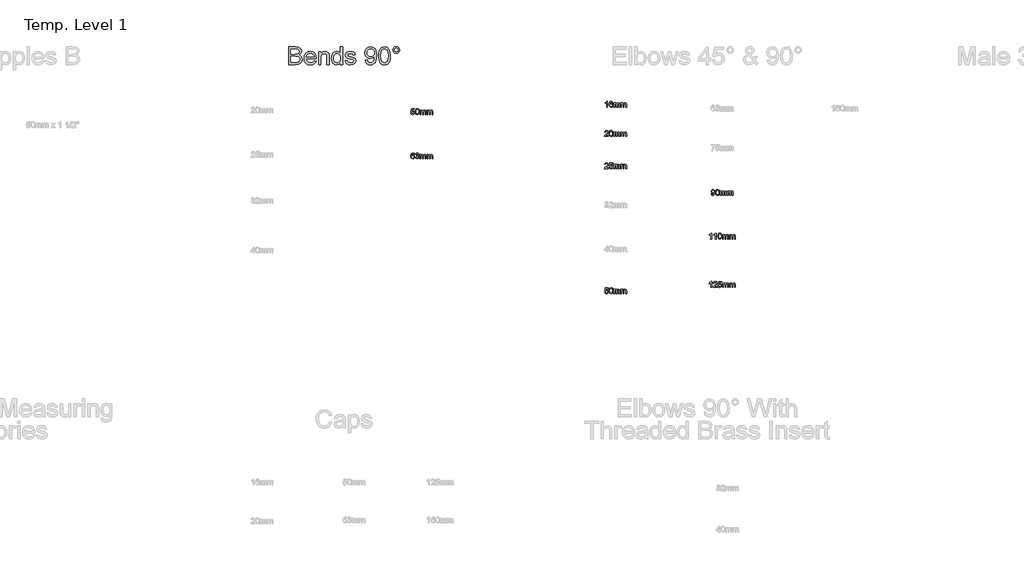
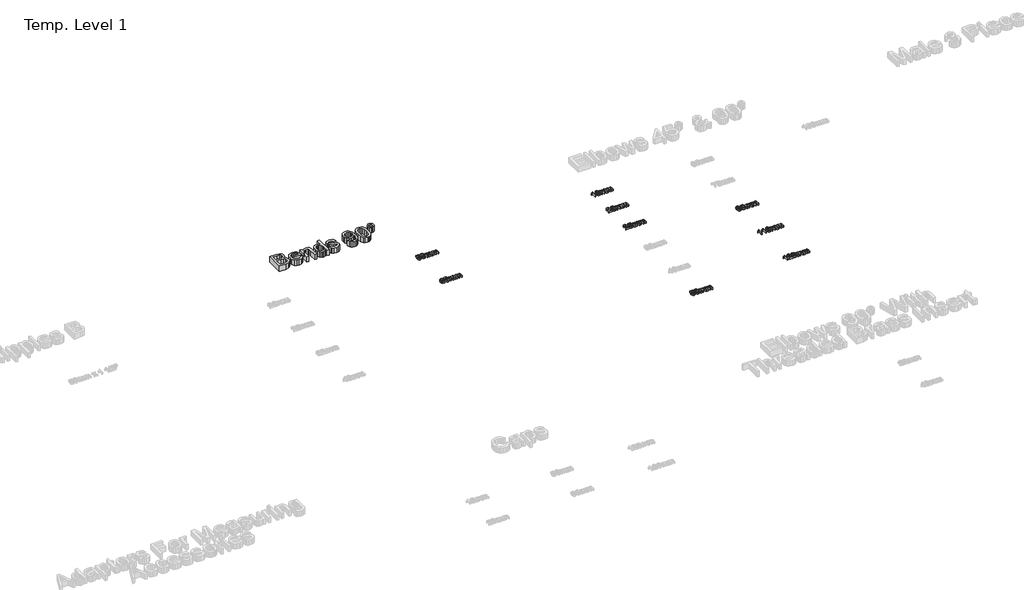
# One storey, part 60 of 62: 10 proxies.
"""IFC4 building model written with IfcOpenShell, lengths in millimetres."""

from ifc_helpers import new_model, si_unit, origin, origin_with_axes, place, context, project, spatial, polyline, outline, extrude, element, save

model = new_model("IFC4")

# Units and contexts
model_context = context("Model", 3, world=origin())
ifc_project = project(units=[si_unit("LENGTHUNIT", "METRE", prefix="MILLI")], contexts=[model_context])

# Site, building, storey
site = spatial("IfcSite", under=ifc_project)
building = spatial("IfcBuilding", under=site)
storey = spatial("IfcBuildingStorey", under=building, Name="Temp. Level 1", Elevation=0.0)

# Proxies
placement = place(None, origin())
element("IfcBuildingElementProxy", 1, Name="150mm Arial", ObjectType="150mm Arial", at=placement, inside=storey, context=model_context, shape_type="SweptSolid", body=[
    extrude(outline(polyline([(20962.2714827, 1929.801483), (20962.2714827, 2077.4937907), (21018.6296558, 2077.4937907), (21046.2318192, 2073.1488388), (21055.5076606, 2067.636519), (21062.5298962, 2059.7894638), (21068.4253288, 2040.895233), (21063.4673962, 2023.6416272), (21048.485425, 2010.5707138), (21058.946663, 2005.1079734), (21066.6765308, 1996.7966753), (21071.4496678, 1986.1866993), (21073.0407135, 1973.8279253), (21068.6957615, 1953.9781657), (21057.9325404, 1939.8435503), (21041.8688385, 1932.3435503), (21018.1969635, 1929.801483), (20962.2714827, 1929.801483)]), holes=[polyline([(20980.7330212, 1948.2630214), (21018.5935981, 1948.2630214), (21032.2955212, 1948.9841753), (21043.8880692, 1953.004608), (21051.5683577, 1961.207733), (21054.579175, 1973.6476368), (21051.0455212, 1987.9985984), (21039.5972038, 1996.5623003), (21016.7907135, 1999.0322522), (20980.7330212, 1999.0322522), (20980.7330212, 1948.2630214)]), polyline([(20980.7330212, 2017.4937907), (21014.4469635, 2017.4937907), (21034.1344635, 2019.0803291), (21045.9794154, 2025.9132618), (21049.9637904, 2037.9385022), (21046.2498481, 2049.9817714), (21035.6128288, 2057.1031657), (21011.8868673, 2059.0322522), (20980.7330212, 2059.0322522), (20980.7330212, 2017.4937907)])]), origin_with_axes(), (0.0, 0.0, 1.0), 50.0),
    extrude(outline(polyline([(21172.0551365, 1962.1091753), (21190.1560981, 1959.801483), (21183.634163, 1946.1626609), (21173.2270115, 1935.9673484), (21159.1690188, 1929.6121801), (21141.6945596, 1927.4937907), (21120.032901, 1931.1491392), (21103.3652327, 1942.1151849), (21092.7372279, 1959.6797883), (21089.1945596, 1983.1308099), (21092.7732856, 2007.3705936), (21103.5094635, 2025.4985984), (21119.9517712, 2036.8026849), (21140.6488865, 2040.5707138), (21160.7014707, 2036.8116993), (21176.7246077, 2025.5346561), (21187.2309178, 2007.4427089), (21190.7330212, 1983.238983), (21190.6248481, 1978.2630214), (21107.6560981, 1978.2630214), (21110.8517111, 1964.4439109), (21118.2750885, 1954.2846561), (21128.9887303, 1948.0376609), (21142.0551365, 1945.9553291), (21160.1560981, 1949.8135022), (21172.0551365, 1962.1091753)]), holes=[polyline([(21107.6560981, 1996.7245599), (21172.2714827, 1996.7245599), (21169.7744875, 2006.4781657), (21164.8796558, 2013.4553291), (21154.1164346, 2019.9457138), (21140.5767712, 2022.1091753), (21128.1323601, 2020.3829133), (21117.8423962, 2015.2041272), (21110.6894514, 2007.1317113), (21107.6560981, 1996.7245599)])]), origin_with_axes(), (0.0, 0.0, 1.0), 50.0),
    extrude(outline(polyline([(21209.1945596, 1929.801483), (21209.1945596, 2038.2630214), (21227.6560981, 2038.2630214), (21227.6560981, 2023.1187907), (21241.7726846, 2036.207733), (21261.0455212, 2040.5707138), (21278.4794154, 2037.0550888), (21290.3784538, 2027.8243195), (21295.9133096, 2014.2485984), (21296.8868673, 1996.4000407), (21296.8868673, 1929.801483), (21278.4253288, 1929.801483), (21278.4253288, 1993.9120599), (21276.297925, 2010.2461945), (21268.7798962, 2018.8820118), (21256.1056173, 2022.1091753), (21245.2928168, 2020.2972763), (21236.0755692, 2014.8615791), (21229.7609659, 2004.3597763), (21227.6560981, 1987.3495599), (21227.6560981, 1929.801483), (21209.1945596, 1929.801483)])), origin_with_axes(), (0.0, 0.0, 1.0), 50.0),
    extrude(outline(polyline([(21389.1945596, 1929.801483), (21389.1945596, 1947.2173484), (21376.9800163, 1932.4246801), (21360.0960019, 1927.4937907), (21348.1609058, 1929.2786464), (21337.235425, 1934.6332138), (21327.9866269, 1943.183394), (21321.0815788, 1954.5550888), (21316.781699, 1968.2885623), (21315.3484058, 1983.9240791), (21320.6308577, 2013.3110984), (21327.2294154, 2024.9667474), (21336.4601846, 2033.5394638), (21347.6245476, 2038.8129013), (21360.0238865, 2040.5707138), (21377.0431173, 2035.5406657), (21389.1945596, 2022.4697522), (21389.1945596, 2077.4937907), (21407.6560981, 2077.4937907), (21407.6560981, 1929.801483), (21389.1945596, 1929.801483)]), holes=[polyline([(21333.8099442, 1983.9961945), (21335.892276, 1967.2969758), (21342.1392712, 1955.4204734), (21351.2167952, 1948.3216152), (21361.7907135, 1945.9553291), (21372.3601245, 1948.2134421), (21381.2077808, 1954.9877811), (21387.1978649, 1966.4045479), (21389.1945596, 1982.5899445), (21387.1618072, 2000.285257), (21381.06355, 2012.5538868), (21371.9905332, 2019.7203532), (21361.0335019, 2022.1091753), (21350.3514106, 2019.8150046), (21341.5984058, 2012.9324926), (21335.7570596, 2001.1100767), (21333.8099442, 1983.9961945)])]), origin_with_axes(), (0.0, 0.0, 1.0), 50.0),
    extrude(outline(polyline([(21428.4253288, 1962.1091753), (21446.8868673, 1964.4168676), (21449.798526, 1956.520233), (21455.4325404, 1950.7149445), (21475.0118673, 1945.9553291), (21493.8339827, 1950.3183099), (21499.9637904, 1960.5586945), (21493.797925, 1968.8519638), (21474.7955212, 1974.1163868), (21446.9950404, 1983.1488388), (21434.8616269, 1993.6957138), (21430.7330212, 2008.5875407), (21434.0503288, 2022.3435503), (21443.1008096, 2032.8543676), (21454.8375885, 2038.317108), (21470.7210019, 2040.5707138), (21493.1849442, 2036.9469157), (21507.4637904, 2027.1392234), (21513.8099442, 2010.5707138), (21495.3484058, 2008.2630214), (21488.4073, 2018.4493195), (21472.1633096, 2022.1091753), (21454.4950404, 2018.6115791), (21449.1945596, 2010.4625407), (21451.3940788, 2005.0899445), (21458.2810981, 2001.0154253), (21474.1825404, 1997.0851368), (21501.2798962, 1988.395233), (21513.8640308, 1978.551483), (21518.4253288, 1962.5058099), (21513.0707615, 1944.8375407), (21497.6200404, 1932.0190311), (21474.7594635, 1927.4937907), (21456.1446798, 1929.6752811), (21442.5599442, 1936.2197522), (21433.4914346, 1947.0550888), (21428.4253288, 1962.1091753)])), origin_with_axes(), (0.0, 0.0, 1.0), 50.0),
    extrude(outline(polyline([(21594.579175, 1966.7245599), (21613.0407135, 1969.0322522), (21616.1957615, 1958.5529854), (21621.3339827, 1951.4180695), (21637.0551365, 1945.9553291), (21652.00105, 1949.4709541), (21662.1332615, 1958.863983), (21668.172925, 1974.9096561), (21670.8411942, 1996.3279253), (21670.7330212, 1999.9336945), (21655.9673962, 1985.9433099), (21635.7210019, 1980.5707138), (21618.8865668, 1983.8519638), (21604.8736462, 1993.6957138), (21595.4220236, 2008.9030455), (21592.2714827, 2028.2750407), (21595.5752688, 2048.2870599), (21605.4866269, 2063.9721561), (21620.3739466, 2074.113382), (21638.6056173, 2077.4937907), (21652.3751486, 2075.5647041), (21664.9097038, 2069.7774445), (21675.3934779, 2060.4204734), (21683.0106654, 2047.7822522), (21687.6485861, 2030.3123003), (21689.1945596, 2006.4601368), (21687.6530933, 1981.1701729), (21683.0286942, 1961.6223964), (21675.3619274, 1946.933394), (21664.6933577, 1936.2197522), (21651.4827207, 1929.6752811), (21636.1897519, 1927.4937907), (21620.4054971, 1930.0674085), (21607.8123481, 1937.7882618), (21599.0052567, 1950.1695719), (21594.579175, 1966.7245599)]), holes=[polyline([(21670.7330212, 2028.707733), (21668.7408337, 2041.2197522), (21662.7642712, 2050.8471561), (21653.4884298, 2056.9859782), (21641.5984058, 2059.0322522), (21629.266675, 2056.8282258), (21619.3868673, 2050.2161464), (21612.8964827, 2040.0974565), (21610.7330212, 2027.3735984), (21612.7792952, 2015.965846), (21618.9181173, 2006.910858), (21628.5545356, 2001.0019037), (21641.0935981, 1999.0322522), (21652.8889707, 2001.0019037), (21662.3856654, 2006.910858), (21668.6461822, 2016.2993796), (21670.7330212, 2028.707733)])]), origin_with_axes(), (0.0, 0.0, 1.0), 50.0),
    extrude(outline(polyline([(21705.3484058, 2002.457733), (21706.7050764, 2026.0980575), (21710.7750885, 2044.9517234), (21717.5178769, 2059.3071921), (21726.8928769, 2069.4529253), (21738.9676966, 2075.4835743), (21753.8099442, 2077.4937907), (21775.3724442, 2072.7341753), (21790.2642712, 2059.0142234), (21798.9181173, 2037.1632618), (21802.2714827, 2002.457733), (21800.9283337, 1978.9526248), (21796.8988865, 1960.1440311), (21790.196663, 1945.7750407), (21780.8351846, 1935.5887426), (21768.7333216, 1929.5175287), (21753.8099442, 1927.4937907), (21734.6272519, 1931.0094157), (21720.0599442, 1941.5562907), (21709.0262904, 1966.535257), (21705.3484058, 2002.457733)]), holes=[polyline([(21723.8099442, 2002.4937907), (21725.9734058, 1973.4538267), (21732.4637904, 1956.6464349), (21742.1272519, 1948.6281056), (21753.8099442, 1945.9553291), (21765.4926365, 1948.63712), (21775.1560981, 1956.6824926), (21781.6464827, 1973.4988988), (21783.8099442, 2002.4937907), (21781.7185981, 2030.8802089), (21775.4445596, 2047.8183099), (21765.7991269, 2056.2287666), (21753.5935981, 2059.0322522), (21742.0371077, 2056.5623003), (21732.7522519, 2049.1524445), (21726.0455212, 2031.1596561), (21723.8099442, 2002.4937907)])]), origin_with_axes(), (0.0, 0.0, 1.0), 50.0),
    extrude(outline(polyline([(21823.0407135, 2052.145233), (21825.0734659, 2062.7912666), (21831.1717231, 2071.7245599), (21840.118538, 2077.7822522), (21850.6969635, 2079.801483), (21861.3970837, 2077.7822522), (21870.3484058, 2071.7245599), (21876.4060981, 2062.7912666), (21878.4253288, 2052.145233), (21876.3925764, 2041.512721), (21870.2943192, 2032.5478772), (21861.3294755, 2026.44962), (21850.6969635, 2024.4168676), (21840.118538, 2026.4360984), (21831.1717231, 2032.4937907), (21825.0734659, 2041.4451128), (21823.0407135, 2052.145233)]), holes=[polyline([(21834.579175, 2052.1091753), (21839.3207615, 2040.6788868), (21850.7690788, 2035.9553291), (21862.1452808, 2040.6788868), (21866.8868673, 2052.1091753), (21862.1452808, 2063.5394638), (21850.7690788, 2068.2630214), (21839.3207615, 2063.5394638), (21834.579175, 2052.1091753)])]), origin_with_axes(), (0.0, 0.0, 1.0), 50.0),
])
element("IfcBuildingElementProxy", 2, Name="50mm Arial", ObjectType="50mm Arial", at=placement, inside=storey, context=model_context, shape_type="SweptSolid", body=[
    extrude(outline(polyline([(21971.2361186, 1531.5141512), (21977.3899648, 1532.2833819), (21980.4909263, 1525.9432377), (21986.9212148, 1523.8218435), (21994.6375609, 1526.7725646), (21997.3899648, 1534.6030935), (21994.8118398, 1541.9107858), (21987.0173686, 1544.5910742), (21981.6147244, 1543.5213627), (21978.1591956, 1540.7449204), (21972.0053494, 1541.5141512), (21977.3899648, 1566.8987665), (22001.2361186, 1566.8987665), (22001.2361186, 1560.7449204), (21982.3659263, 1560.7449204), (21979.7337148, 1547.1872281), (21988.7361186, 1550.7449204), (21999.2589552, 1546.3338627), (22003.5438109, 1534.9877089), (21999.6856379, 1523.5694396), (21994.1447725, 1519.1433579), (21986.8971763, 1517.6679973), (21976.0378013, 1521.4600646), (21971.2361186, 1531.5141512)])), origin_with_axes(), (0.0, 0.0, 1.0), 15.0),
    extrude(outline(polyline([(22008.9284263, 1542.6559781), (22010.7373206, 1556.8206415), (22016.1099167, 1564.9877089), (22025.0822725, 1567.6679973), (22032.2697725, 1566.0814589), (22037.2337148, 1561.5081415), (22040.1183302, 1554.2244877), (22041.2361186, 1542.6559781), (22039.4452533, 1528.5514108), (22034.0906859, 1520.3663146), (22025.0822725, 1517.6679973), (22013.8322725, 1522.3554973), (22010.1543879, 1530.6818194), (22008.9284263, 1542.6559781)]), holes=[polyline([(22015.0822725, 1542.6679973), (22017.9668879, 1527.3855454), (22025.0822725, 1523.8218435), (22032.1976571, 1527.3975646), (22035.0822725, 1542.6679973), (22032.2938109, 1557.7761704), (22025.0101571, 1561.5141512), (22018.0630417, 1558.2208819), (22015.0822725, 1542.6679973)])]), origin_with_axes(), (0.0, 0.0, 1.0), 15.0),
    extrude(outline(polyline([(22048.1591956, 1518.4372281), (22048.1591956, 1554.5910742), (22054.3130417, 1554.5910742), (22054.3130417, 1548.641555), (22058.5438109, 1553.5153531), (22064.5654456, 1555.360305), (22070.7313109, 1553.4792954), (22074.120734, 1548.2088627), (22078.9224167, 1553.5724444), (22084.9861186, 1555.360305), (22093.0329936, 1552.3855454), (22095.8515033, 1543.2208819), (22095.8515033, 1518.4372281), (22089.6976571, 1518.4372281), (22089.6976571, 1540.5766512), (22089.1267436, 1545.7148723), (22087.0594359, 1548.2449204), (22083.5438109, 1549.2064589), (22077.4921283, 1546.7425165), (22075.0822725, 1538.8458819), (22075.0822725, 1518.4372281), (22068.9284263, 1518.4372281), (22068.9284263, 1541.2617473), (22067.5041475, 1547.2232858), (22062.8346763, 1549.2064589), (22058.2793879, 1547.8843435), (22055.2505417, 1544.0141512), (22054.3130417, 1536.6704012), (22054.3130417, 1518.4372281), (22048.1591956, 1518.4372281)])), origin_with_axes(), (0.0, 0.0, 1.0), 15.0),
    extrude(outline(polyline([(22105.0822725, 1518.4372281), (22105.0822725, 1554.5910742), (22111.2361186, 1554.5910742), (22111.2361186, 1548.641555), (22115.4668879, 1553.5153531), (22121.4885225, 1555.360305), (22127.6543879, 1553.4792954), (22131.0438109, 1548.2088627), (22135.8454936, 1553.5724444), (22141.9091956, 1555.360305), (22149.9560706, 1552.3855454), (22152.7745802, 1543.2208819), (22152.7745802, 1518.4372281), (22146.620734, 1518.4372281), (22146.620734, 1540.5766512), (22146.0498206, 1545.7148723), (22143.9825129, 1548.2449204), (22140.4668879, 1549.2064589), (22134.4152052, 1546.7425165), (22132.0053494, 1538.8458819), (22132.0053494, 1518.4372281), (22125.8515033, 1518.4372281), (22125.8515033, 1541.2617473), (22124.4272244, 1547.2232858), (22119.7577533, 1549.2064589), (22115.2024648, 1547.8843435), (22112.1736186, 1544.0141512), (22111.2361186, 1536.6704012), (22111.2361186, 1518.4372281), (22105.0822725, 1518.4372281)])), origin_with_axes(), (0.0, 0.0, 1.0), 15.0),
])
element("IfcBuildingElementProxy", 3, Name="50mm Arial", ObjectType="50mm Arial", at=placement, inside=storey, context=model_context, shape_type="SweptSolid", body=[
    extrude(outline(polyline([(22002.7745802, 1188.4553291), (21996.620734, 1187.6860984), (21994.2890033, 1192.8183099), (21988.1231379, 1195.3784061), (21982.5702533, 1193.8880214), (21978.3695321, 1188.2930695), (21976.620734, 1177.3255214), (21982.0474167, 1182.2353772), (21988.7721763, 1183.8399445), (21999.2289071, 1179.4529253), (22003.5438109, 1168.1187907), (22001.5125609, 1159.6272041), (21995.9236186, 1153.6175888), (21987.8587148, 1151.5322522), (21975.3166475, 1157.0610984), (21971.6793278, 1164.3808099), (21970.4668879, 1175.2822522), (21971.8130417, 1187.5388628), (21975.8515033, 1195.9192714), (21981.3653254, 1200.129007), (21988.5077533, 1201.5322522), (21998.2313109, 1198.0586945), (22002.7745802, 1188.4553291)]), holes=[polyline([(21976.620734, 1168.2149445), (21978.0450129, 1162.8844157), (21981.8310706, 1159.0142234), (21987.3779456, 1157.6860984), (21994.6315513, 1160.4385022), (21997.3899648, 1167.9144638), (21994.667609, 1175.0719157), (21987.1255417, 1177.6860984), (21979.6796283, 1175.0719157), (21976.620734, 1168.2149445)])]), origin_with_axes(), (0.0, 0.0, 1.0), 15.0),
    extrude(outline(polyline([(22008.9284263, 1165.3784061), (22015.0822725, 1166.1476368), (22018.4777052, 1159.6692714), (22024.8298686, 1157.6860984), (22032.3058302, 1160.4144638), (22035.0822725, 1167.1692714), (22032.3298686, 1173.5334541), (22025.3346763, 1176.051483), (22021.0197725, 1175.3784061), (22021.7048686, 1181.5322522), (22029.6736186, 1183.2269638), (22032.7745802, 1188.6596561), (22030.526984, 1193.473358), (22024.7337148, 1195.3784061), (22018.8683302, 1193.4553291), (22015.8515033, 1187.6860984), (22009.6976571, 1188.4553291), (22014.7337148, 1198.1067714), (22024.5173686, 1201.5322522), (22031.9392436, 1199.8435503), (22037.1315513, 1195.2281657), (22038.9284263, 1189.020233), (22037.2216956, 1183.3471561), (22032.1736186, 1179.2726368), (22038.8803494, 1175.0659061), (22041.2361186, 1167.0610984), (22036.5245802, 1156.051483), (22024.6135225, 1151.5322522), (22013.8202533, 1155.3904253), (22008.9284263, 1165.3784061)])), origin_with_axes(), (0.0, 0.0, 1.0), 15.0),
    extrude(outline(polyline([(22048.1591956, 1152.301483), (22048.1591956, 1188.4553291), (22054.3130417, 1188.4553291), (22054.3130417, 1182.5058099), (22058.5438109, 1187.379608), (22064.5654456, 1189.2245599), (22070.7313109, 1187.3435503), (22074.120734, 1182.0731176), (22078.9224167, 1187.4366993), (22084.9861186, 1189.2245599), (22093.0329936, 1186.2498003), (22095.8515033, 1177.0851368), (22095.8515033, 1152.301483), (22089.6976571, 1152.301483), (22089.6976571, 1174.4409061), (22089.1267436, 1179.5791272), (22087.0594359, 1182.1091753), (22083.5438109, 1183.0707138), (22077.4921283, 1180.6067714), (22075.0822725, 1172.7101368), (22075.0822725, 1152.301483), (22068.9284263, 1152.301483), (22068.9284263, 1175.1260022), (22067.5041475, 1181.0875407), (22062.8346763, 1183.0707138), (22058.2793879, 1181.7485984), (22055.2505417, 1177.8784061), (22054.3130417, 1170.5346561), (22054.3130417, 1152.301483), (22048.1591956, 1152.301483)])), origin_with_axes(), (0.0, 0.0, 1.0), 15.0),
    extrude(outline(polyline([(22105.0822725, 1152.301483), (22105.0822725, 1188.4553291), (22111.2361186, 1188.4553291), (22111.2361186, 1182.5058099), (22115.4668879, 1187.379608), (22121.4885225, 1189.2245599), (22127.6543879, 1187.3435503), (22131.0438109, 1182.0731176), (22135.8454936, 1187.4366993), (22141.9091956, 1189.2245599), (22149.9560706, 1186.2498003), (22152.7745802, 1177.0851368), (22152.7745802, 1152.301483), (22146.620734, 1152.301483), (22146.620734, 1174.4409061), (22146.0498206, 1179.5791272), (22143.9825129, 1182.1091753), (22140.4668879, 1183.0707138), (22134.4152052, 1180.6067714), (22132.0053494, 1172.7101368), (22132.0053494, 1152.301483), (22125.8515033, 1152.301483), (22125.8515033, 1175.1260022), (22124.4272244, 1181.0875407), (22119.7577533, 1183.0707138), (22115.2024648, 1181.7485984), (22112.1736186, 1177.8784061), (22111.2361186, 1170.5346561), (22111.2361186, 1152.301483), (22105.0822725, 1152.301483)])), origin_with_axes(), (0.0, 0.0, 1.0), 15.0),
])
element("IfcBuildingElementProxy", 4, Name="50mm Arial", ObjectType="50mm Arial", at=placement, inside=storey, context=model_context, shape_type="SweptSolid", body=[
    extrude(outline(polyline([(23594.3130417, 1578.4372281), (23588.1591956, 1578.4372281), (23588.1591956, 1616.8026127), (23582.3298686, 1612.6499685), (23575.8515033, 1609.5429973), (23575.8515033, 1615.360305), (23584.8719359, 1621.1175165), (23590.3466956, 1627.6679973), (23594.3130417, 1627.6679973), (23594.3130417, 1578.4372281)])), origin_with_axes(), (0.0, 0.0, 1.0), 15.0),
    extrude(outline(polyline([(23640.4668879, 1614.5910742), (23634.3130417, 1613.8218435), (23631.9813109, 1618.954055), (23625.8154456, 1621.5141512), (23620.2625609, 1620.0237665), (23616.0618398, 1614.4288146), (23614.3130417, 1603.4612665), (23619.7397244, 1608.3711223), (23626.464484, 1609.9756896), (23636.9212148, 1605.5886704), (23641.2361186, 1594.2545358), (23639.2048686, 1585.7629492), (23633.6159263, 1579.7533339), (23625.5510225, 1577.6679973), (23613.0089552, 1583.1968435), (23609.3716355, 1590.516555), (23608.1591956, 1601.4179973), (23609.5053494, 1613.6746079), (23613.5438109, 1622.0550165), (23619.0576331, 1626.2647521), (23626.2000609, 1627.6679973), (23635.9236186, 1624.1944396), (23640.4668879, 1614.5910742)]), holes=[polyline([(23614.3130417, 1594.3506896), (23615.7373206, 1589.0201608), (23619.5233783, 1585.1499685), (23625.0702533, 1583.8218435), (23632.323859, 1586.5742473), (23635.0822725, 1594.0502089), (23632.3599167, 1601.2076608), (23624.8178494, 1603.8218435), (23617.3719359, 1601.2076608), (23614.3130417, 1594.3506896)])]), origin_with_axes(), (0.0, 0.0, 1.0), 15.0),
    extrude(outline(polyline([(23648.1591956, 1578.4372281), (23648.1591956, 1614.5910742), (23654.3130417, 1614.5910742), (23654.3130417, 1608.641555), (23658.5438109, 1613.5153531), (23664.5654456, 1615.360305), (23670.7313109, 1613.4792954), (23674.120734, 1608.2088627), (23678.9224167, 1613.5724444), (23684.9861186, 1615.360305), (23693.0329936, 1612.3855454), (23695.8515033, 1603.2208819), (23695.8515033, 1578.4372281), (23689.6976571, 1578.4372281), (23689.6976571, 1600.5766512), (23689.1267436, 1605.7148723), (23687.0594359, 1608.2449204), (23683.5438109, 1609.2064589), (23677.4921283, 1606.7425165), (23675.0822725, 1598.8458819), (23675.0822725, 1578.4372281), (23668.9284263, 1578.4372281), (23668.9284263, 1601.2617473), (23667.5041475, 1607.2232858), (23662.8346763, 1609.2064589), (23658.2793879, 1607.8843435), (23655.2505417, 1604.0141512), (23654.3130417, 1596.6704012), (23654.3130417, 1578.4372281), (23648.1591956, 1578.4372281)])), origin_with_axes(), (0.0, 0.0, 1.0), 15.0),
    extrude(outline(polyline([(23705.0822725, 1578.4372281), (23705.0822725, 1614.5910742), (23711.2361186, 1614.5910742), (23711.2361186, 1608.641555), (23715.4668879, 1613.5153531), (23721.4885225, 1615.360305), (23727.6543879, 1613.4792954), (23731.0438109, 1608.2088627), (23735.8454936, 1613.5724444), (23741.9091956, 1615.360305), (23749.9560706, 1612.3855454), (23752.7745802, 1603.2208819), (23752.7745802, 1578.4372281), (23746.620734, 1578.4372281), (23746.620734, 1600.5766512), (23746.0498206, 1605.7148723), (23743.9825129, 1608.2449204), (23740.4668879, 1609.2064589), (23734.4152052, 1606.7425165), (23732.0053494, 1598.8458819), (23732.0053494, 1578.4372281), (23725.8515033, 1578.4372281), (23725.8515033, 1601.2617473), (23724.4272244, 1607.2232858), (23719.7577533, 1609.2064589), (23715.2024648, 1607.8843435), (23712.1736186, 1604.0141512), (23711.2361186, 1596.6704012), (23711.2361186, 1578.4372281), (23705.0822725, 1578.4372281)])), origin_with_axes(), (0.0, 0.0, 1.0), 15.0),
])
element("IfcBuildingElementProxy", 5, Name="50mm Arial", ObjectType="50mm Arial", at=placement, inside=storey, context=model_context, shape_type="SweptSolid", body=[
    extrude(outline(polyline([(23602.7745802, 1343.4553291), (23602.7745802, 1337.301483), (23570.4668879, 1337.301483), (23571.1279456, 1341.5442714), (23574.8659263, 1348.0767234), (23582.5702533, 1355.2101368), (23593.1952533, 1365.4625407), (23595.8515033, 1372.4336945), (23593.3454936, 1378.0767234), (23586.8010225, 1380.3784061), (23579.980109, 1378.1308099), (23577.3899648, 1371.9168676), (23571.2361186, 1372.6860984), (23575.9536667, 1382.9865791), (23586.933234, 1386.5322522), (23597.948859, 1382.5899445), (23602.0053494, 1372.8062907), (23600.9115994, 1366.9709541), (23597.2757821, 1360.9373003), (23588.4596763, 1352.5058099), (23581.3803494, 1346.5863388), (23578.6039071, 1343.4553291), (23602.7745802, 1343.4553291)])), origin_with_axes(), (0.0, 0.0, 1.0), 15.0),
    extrude(outline(polyline([(23608.9284263, 1361.520233), (23610.7373206, 1375.6848964), (23616.1099167, 1383.8519638), (23625.0822725, 1386.5322522), (23632.2697725, 1384.9457138), (23637.2337148, 1380.3723964), (23640.1183302, 1373.0887426), (23641.2361186, 1361.520233), (23639.4452533, 1347.4156657), (23634.0906859, 1339.2305695), (23625.0822725, 1336.5322522), (23613.8322725, 1341.2197522), (23610.1543879, 1349.5460743), (23608.9284263, 1361.520233)]), holes=[polyline([(23615.0822725, 1361.5322522), (23617.9668879, 1346.2498003), (23625.0822725, 1342.6860984), (23632.1976571, 1346.2618195), (23635.0822725, 1361.5322522), (23632.2938109, 1376.6404253), (23625.0101571, 1380.3784061), (23618.0630417, 1377.0851368), (23615.0822725, 1361.5322522)])]), origin_with_axes(), (0.0, 0.0, 1.0), 15.0),
    extrude(outline(polyline([(23648.1591956, 1337.301483), (23648.1591956, 1373.4553291), (23654.3130417, 1373.4553291), (23654.3130417, 1367.5058099), (23658.5438109, 1372.379608), (23664.5654456, 1374.2245599), (23670.7313109, 1372.3435503), (23674.120734, 1367.0731176), (23678.9224167, 1372.4366993), (23684.9861186, 1374.2245599), (23693.0329936, 1371.2498003), (23695.8515033, 1362.0851368), (23695.8515033, 1337.301483), (23689.6976571, 1337.301483), (23689.6976571, 1359.4409061), (23689.1267436, 1364.5791272), (23687.0594359, 1367.1091753), (23683.5438109, 1368.0707138), (23677.4921283, 1365.6067714), (23675.0822725, 1357.7101368), (23675.0822725, 1337.301483), (23668.9284263, 1337.301483), (23668.9284263, 1360.1260022), (23667.5041475, 1366.0875407), (23662.8346763, 1368.0707138), (23658.2793879, 1366.7485984), (23655.2505417, 1362.8784061), (23654.3130417, 1355.5346561), (23654.3130417, 1337.301483), (23648.1591956, 1337.301483)])), origin_with_axes(), (0.0, 0.0, 1.0), 15.0),
    extrude(outline(polyline([(23705.0822725, 1337.301483), (23705.0822725, 1373.4553291), (23711.2361186, 1373.4553291), (23711.2361186, 1367.5058099), (23715.4668879, 1372.379608), (23721.4885225, 1374.2245599), (23727.6543879, 1372.3435503), (23731.0438109, 1367.0731176), (23735.8454936, 1372.4366993), (23741.9091956, 1374.2245599), (23749.9560706, 1371.2498003), (23752.7745802, 1362.0851368), (23752.7745802, 1337.301483), (23746.620734, 1337.301483), (23746.620734, 1359.4409061), (23746.0498206, 1364.5791272), (23743.9825129, 1367.1091753), (23740.4668879, 1368.0707138), (23734.4152052, 1365.6067714), (23732.0053494, 1357.7101368), (23732.0053494, 1337.301483), (23725.8515033, 1337.301483), (23725.8515033, 1360.1260022), (23724.4272244, 1366.0875407), (23719.7577533, 1368.0707138), (23715.2024648, 1366.7485984), (23712.1736186, 1362.8784061), (23711.2361186, 1355.5346561), (23711.2361186, 1337.301483), (23705.0822725, 1337.301483)])), origin_with_axes(), (0.0, 0.0, 1.0), 15.0),
])
element("IfcBuildingElementProxy", 6, Name="50mm Arial", ObjectType="50mm Arial", at=placement, inside=storey, context=model_context, shape_type="SweptSolid", body=[
    extrude(outline(polyline([(23602.7745802, 1077.0910742), (23602.7745802, 1070.9372281), (23570.4668879, 1070.9372281), (23571.1279456, 1075.1800165), (23574.8659263, 1081.7124685), (23582.5702533, 1088.8458819), (23593.1952533, 1099.0982858), (23595.8515033, 1106.0694396), (23593.3454936, 1111.7124685), (23586.8010225, 1114.0141512), (23579.980109, 1111.766555), (23577.3899648, 1105.5526127), (23571.2361186, 1106.3218435), (23575.9536667, 1116.6223242), (23586.933234, 1120.1679973), (23597.948859, 1116.2256896), (23602.0053494, 1106.4420358), (23600.9115994, 1100.6066992), (23597.2757821, 1094.5730454), (23588.4596763, 1086.141555), (23581.3803494, 1080.2220839), (23578.6039071, 1077.0910742), (23602.7745802, 1077.0910742)])), origin_with_axes(), (0.0, 0.0, 1.0), 15.0),
    extrude(outline(polyline([(23608.9284263, 1084.0141512), (23615.0822725, 1084.7833819), (23618.183234, 1078.4432377), (23624.6135225, 1076.3218435), (23632.3298686, 1079.2725646), (23635.0822725, 1087.1030935), (23632.5041475, 1094.4107858), (23624.7096763, 1097.0910742), (23619.3070321, 1096.0213627), (23615.8515033, 1093.2449204), (23609.6976571, 1094.0141512), (23615.0822725, 1119.3987665), (23638.9284263, 1119.3987665), (23638.9284263, 1113.2449204), (23620.058234, 1113.2449204), (23617.4260225, 1099.6872281), (23626.4284263, 1103.2449204), (23636.9512629, 1098.8338627), (23641.2361186, 1087.4877089), (23637.3779456, 1076.0694396), (23631.8370802, 1071.6433579), (23624.589484, 1070.1679973), (23613.730109, 1073.9600646), (23608.9284263, 1084.0141512)])), origin_with_axes(), (0.0, 0.0, 1.0), 15.0),
    extrude(outline(polyline([(23648.1591956, 1070.9372281), (23648.1591956, 1107.0910742), (23654.3130417, 1107.0910742), (23654.3130417, 1101.141555), (23658.5438109, 1106.0153531), (23664.5654456, 1107.860305), (23670.7313109, 1105.9792954), (23674.120734, 1100.7088627), (23678.9224167, 1106.0724444), (23684.9861186, 1107.860305), (23693.0329936, 1104.8855454), (23695.8515033, 1095.7208819), (23695.8515033, 1070.9372281), (23689.6976571, 1070.9372281), (23689.6976571, 1093.0766512), (23689.1267436, 1098.2148723), (23687.0594359, 1100.7449204), (23683.5438109, 1101.7064589), (23677.4921283, 1099.2425165), (23675.0822725, 1091.3458819), (23675.0822725, 1070.9372281), (23668.9284263, 1070.9372281), (23668.9284263, 1093.7617473), (23667.5041475, 1099.7232858), (23662.8346763, 1101.7064589), (23658.2793879, 1100.3843435), (23655.2505417, 1096.5141512), (23654.3130417, 1089.1704012), (23654.3130417, 1070.9372281), (23648.1591956, 1070.9372281)])), origin_with_axes(), (0.0, 0.0, 1.0), 15.0),
    extrude(outline(polyline([(23705.0822725, 1070.9372281), (23705.0822725, 1107.0910742), (23711.2361186, 1107.0910742), (23711.2361186, 1101.141555), (23715.4668879, 1106.0153531), (23721.4885225, 1107.860305), (23727.6543879, 1105.9792954), (23731.0438109, 1100.7088627), (23735.8454936, 1106.0724444), (23741.9091956, 1107.860305), (23749.9560706, 1104.8855454), (23752.7745802, 1095.7208819), (23752.7745802, 1070.9372281), (23746.620734, 1070.9372281), (23746.620734, 1093.0766512), (23746.0498206, 1098.2148723), (23743.9825129, 1100.7449204), (23740.4668879, 1101.7064589), (23734.4152052, 1099.2425165), (23732.0053494, 1091.3458819), (23732.0053494, 1070.9372281), (23725.8515033, 1070.9372281), (23725.8515033, 1093.7617473), (23724.4272244, 1099.7232858), (23719.7577533, 1101.7064589), (23715.2024648, 1100.3843435), (23712.1736186, 1096.5141512), (23711.2361186, 1089.1704012), (23711.2361186, 1070.9372281), (23705.0822725, 1070.9372281)])), origin_with_axes(), (0.0, 0.0, 1.0), 15.0),
])
element("IfcBuildingElementProxy", 7, Name="50mm Arial", ObjectType="50mm Arial", at=placement, inside=storey, context=model_context, shape_type="SweptSolid", body=[
    extrude(outline(polyline([(23571.2361186, 51.7639942), (23577.3899648, 52.533225), (23580.4909263, 46.1930807), (23586.9212148, 44.0716865), (23594.6375609, 47.0224077), (23597.3899648, 54.8529365), (23594.8118398, 62.1606288), (23587.0173686, 64.8409173), (23581.6147244, 63.7712057), (23578.1591956, 60.9947634), (23572.0053494, 61.7639942), (23577.3899648, 87.1486096), (23601.2361186, 87.1486096), (23601.2361186, 80.9947634), (23582.3659263, 80.9947634), (23579.7337148, 67.4370711), (23588.7361186, 70.9947634), (23599.2589552, 66.5837057), (23603.5438109, 55.2375519), (23599.6856379, 43.8192827), (23594.1447725, 39.3932009), (23586.8971763, 37.9178403), (23576.0378013, 41.7099077), (23571.2361186, 51.7639942)])), origin_with_axes(), (0.0, 0.0, 1.0), 15.0),
    extrude(outline(polyline([(23608.9284263, 62.9058211), (23610.7373206, 77.0704846), (23616.1099167, 85.2375519), (23625.0822725, 87.9178403), (23632.2697725, 86.3313019), (23637.2337148, 81.7579846), (23640.1183302, 74.4743307), (23641.2361186, 62.9058211), (23639.4452533, 48.8012538), (23634.0906859, 40.6161577), (23625.0822725, 37.9178403), (23613.8322725, 42.6053403), (23610.1543879, 50.9316625), (23608.9284263, 62.9058211)]), holes=[polyline([(23615.0822725, 62.9178403), (23617.9668879, 47.6353884), (23625.0822725, 44.0716865), (23632.1976571, 47.6474077), (23635.0822725, 62.9178403), (23632.2938109, 78.0260134), (23625.0101571, 81.7639942), (23618.0630417, 78.470725), (23615.0822725, 62.9178403)])]), origin_with_axes(), (0.0, 0.0, 1.0), 15.0),
    extrude(outline(polyline([(23648.1591956, 38.6870711), (23648.1591956, 74.8409173), (23654.3130417, 74.8409173), (23654.3130417, 68.891398), (23658.5438109, 73.7651961), (23664.5654456, 75.610148), (23670.7313109, 73.7291384), (23674.120734, 68.4587057), (23678.9224167, 73.8222875), (23684.9861186, 75.610148), (23693.0329936, 72.6353884), (23695.8515033, 63.470725), (23695.8515033, 38.6870711), (23689.6976571, 38.6870711), (23689.6976571, 60.8264942), (23689.1267436, 65.9647153), (23687.0594359, 68.4947634), (23683.5438109, 69.4563019), (23677.4921283, 66.9923596), (23675.0822725, 59.095725), (23675.0822725, 38.6870711), (23668.9284263, 38.6870711), (23668.9284263, 61.5115903), (23667.5041475, 67.4731288), (23662.8346763, 69.4563019), (23658.2793879, 68.1341865), (23655.2505417, 64.2639942), (23654.3130417, 56.9202442), (23654.3130417, 38.6870711), (23648.1591956, 38.6870711)])), origin_with_axes(), (0.0, 0.0, 1.0), 15.0),
    extrude(outline(polyline([(23705.0822725, 38.6870711), (23705.0822725, 74.8409173), (23711.2361186, 74.8409173), (23711.2361186, 68.891398), (23715.4668879, 73.7651961), (23721.4885225, 75.610148), (23727.6543879, 73.7291384), (23731.0438109, 68.4587057), (23735.8454936, 73.8222875), (23741.9091956, 75.610148), (23749.9560706, 72.6353884), (23752.7745802, 63.470725), (23752.7745802, 38.6870711), (23746.620734, 38.6870711), (23746.620734, 60.8264942), (23746.0498206, 65.9647153), (23743.9825129, 68.4947634), (23740.4668879, 69.4563019), (23734.4152052, 66.9923596), (23732.0053494, 59.095725), (23732.0053494, 38.6870711), (23725.8515033, 38.6870711), (23725.8515033, 61.5115903), (23724.4272244, 67.4731288), (23719.7577533, 69.4563019), (23715.2024648, 68.1341865), (23712.1736186, 64.2639942), (23711.2361186, 56.9202442), (23711.2361186, 38.6870711), (23705.0822725, 38.6870711)])), origin_with_axes(), (0.0, 0.0, 1.0), 15.0),
])
element("IfcBuildingElementProxy", 8, Name="50mm Arial", ObjectType="50mm Arial", at=placement, inside=storey, context=model_context, shape_type="SweptSolid", body=[
    extrude(outline(polyline([(24452.0053494, 862.1091753), (24458.1591956, 862.8784061), (24460.9236186, 857.0070118), (24466.1640033, 855.1860984), (24471.1459744, 856.3579734), (24474.5233783, 859.488983), (24476.5365994, 864.8375407), (24477.4260225, 871.9769638), (24472.4680898, 868.5154253), (24465.7192917, 866.7245599), (24455.4368398, 871.0995599), (24451.2361186, 882.6260022), (24455.6411667, 894.5250407), (24466.6808302, 899.0322522), (24475.448859, 896.4601368), (24481.4825129, 889.1284061), (24483.5438109, 875.3543676), (24481.4885225, 860.4084541), (24475.3767436, 851.9409061), (24465.8755417, 849.0322522), (24456.4164071, 852.4637426), (24452.0053494, 862.1091753)]), holes=[polyline([(24477.3899648, 882.770233), (24474.7337148, 890.1500407), (24467.6784263, 892.8784061), (24460.2745802, 889.9397041), (24457.3899648, 882.3255214), (24460.1183302, 875.504608), (24467.5101571, 872.8784061), (24474.6075129, 875.504608), (24477.3899648, 882.770233)])]), origin_with_axes(), (0.0, 0.0, 1.0), 15.0),
    extrude(outline(polyline([(24488.9284263, 874.020233), (24490.7373206, 888.1848964), (24496.1099167, 896.3519638), (24505.0822725, 899.0322522), (24512.2697725, 897.4457138), (24517.2337148, 892.8723964), (24520.1183302, 885.5887426), (24521.2361186, 874.020233), (24519.4452533, 859.9156657), (24514.0906859, 851.7305695), (24505.0822725, 849.0322522), (24493.8322725, 853.7197522), (24490.1543879, 862.0460743), (24488.9284263, 874.020233)]), holes=[polyline([(24495.0822725, 874.0322522), (24497.9668879, 858.7498003), (24505.0822725, 855.1860984), (24512.1976571, 858.7618195), (24515.0822725, 874.0322522), (24512.2938109, 889.1404253), (24505.0101571, 892.8784061), (24498.0630417, 889.5851368), (24495.0822725, 874.0322522)])]), origin_with_axes(), (0.0, 0.0, 1.0), 15.0),
    extrude(outline(polyline([(24528.1591956, 849.801483), (24528.1591956, 885.9553291), (24534.3130417, 885.9553291), (24534.3130417, 880.0058099), (24538.5438109, 884.879608), (24544.5654456, 886.7245599), (24550.7313109, 884.8435503), (24554.120734, 879.5731176), (24558.9224167, 884.9366993), (24564.9861186, 886.7245599), (24573.0329936, 883.7498003), (24575.8515033, 874.5851368), (24575.8515033, 849.801483), (24569.6976571, 849.801483), (24569.6976571, 871.9409061), (24569.1267436, 877.0791272), (24567.0594359, 879.6091753), (24563.5438109, 880.5707138), (24557.4921283, 878.1067714), (24555.0822725, 870.2101368), (24555.0822725, 849.801483), (24548.9284263, 849.801483), (24548.9284263, 872.6260022), (24547.5041475, 878.5875407), (24542.8346763, 880.5707138), (24538.2793879, 879.2485984), (24535.2505417, 875.3784061), (24534.3130417, 868.0346561), (24534.3130417, 849.801483), (24528.1591956, 849.801483)])), origin_with_axes(), (0.0, 0.0, 1.0), 15.0),
    extrude(outline(polyline([(24585.0822725, 849.801483), (24585.0822725, 885.9553291), (24591.2361186, 885.9553291), (24591.2361186, 880.0058099), (24595.4668879, 884.879608), (24601.4885225, 886.7245599), (24607.6543879, 884.8435503), (24611.0438109, 879.5731176), (24615.8454936, 884.9366993), (24621.9091956, 886.7245599), (24629.9560706, 883.7498003), (24632.7745802, 874.5851368), (24632.7745802, 849.801483), (24626.620734, 849.801483), (24626.620734, 871.9409061), (24626.0498206, 877.0791272), (24623.9825129, 879.6091753), (24620.4668879, 880.5707138), (24614.4152052, 878.1067714), (24612.0053494, 870.2101368), (24612.0053494, 849.801483), (24605.8515033, 849.801483), (24605.8515033, 872.6260022), (24604.4272244, 878.5875407), (24599.7577533, 880.5707138), (24595.2024648, 879.2485984), (24592.1736186, 875.3784061), (24591.2361186, 868.0346561), (24591.2361186, 849.801483), (24585.0822725, 849.801483)])), origin_with_axes(), (0.0, 0.0, 1.0), 15.0),
])
element("IfcBuildingElementProxy", 9, Name="50mm Arial", ObjectType="50mm Arial", at=placement, inside=storey, context=model_context, shape_type="SweptSolid", body=[
    extrude(outline(polyline([(24455.4668879, 489.801483), (24449.3130417, 489.801483), (24449.3130417, 528.1668676), (24443.4837148, 524.0142234), (24437.0053494, 520.9072522), (24437.0053494, 526.7245599), (24446.0257821, 532.4817714), (24451.5005417, 539.0322522), (24455.4668879, 539.0322522), (24455.4668879, 489.801483)])), origin_with_axes(), (0.0, 0.0, 1.0), 15.0),
    extrude(outline(polyline([(24493.1591956, 489.801483), (24487.0053494, 489.801483), (24487.0053494, 528.1668676), (24481.1760225, 524.0142234), (24474.6976571, 520.9072522), (24474.6976571, 526.7245599), (24483.7180898, 532.4817714), (24489.1928494, 539.0322522), (24493.1591956, 539.0322522), (24493.1591956, 489.801483)])), origin_with_axes(), (0.0, 0.0, 1.0), 15.0),
    extrude(outline(polyline([(24507.7745802, 514.020233), (24509.5834744, 528.1848964), (24514.9560706, 536.3519638), (24523.9284263, 539.0322522), (24531.1159263, 537.4457138), (24536.0798686, 532.8723964), (24538.964484, 525.5887426), (24540.0822725, 514.020233), (24538.2914071, 499.9156657), (24532.9368398, 491.7305695), (24523.9284263, 489.0322522), (24512.6784263, 493.7197522), (24509.0005417, 502.0460743), (24507.7745802, 514.020233)]), holes=[polyline([(24513.9284263, 514.0322522), (24516.8130417, 498.7498003), (24523.9284263, 495.1860984), (24531.0438109, 498.7618195), (24533.9284263, 514.0322522), (24531.1399648, 529.1404253), (24523.8563109, 532.8784061), (24516.9091956, 529.5851368), (24513.9284263, 514.0322522)])]), origin_with_axes(), (0.0, 0.0, 1.0), 15.0),
    extrude(outline(polyline([(24547.0053494, 489.801483), (24547.0053494, 525.9553291), (24553.1591956, 525.9553291), (24553.1591956, 520.0058099), (24557.3899648, 524.879608), (24563.4115994, 526.7245599), (24569.5774648, 524.8435503), (24572.9668879, 519.5731176), (24577.7685706, 524.9366993), (24583.8322725, 526.7245599), (24591.8791475, 523.7498003), (24594.6976571, 514.5851368), (24594.6976571, 489.801483), (24588.5438109, 489.801483), (24588.5438109, 511.9409061), (24587.9728975, 517.0791272), (24585.9055898, 519.6091753), (24582.3899648, 520.5707138), (24576.3382821, 518.1067714), (24573.9284263, 510.2101368), (24573.9284263, 489.801483), (24567.7745802, 489.801483), (24567.7745802, 512.6260022), (24566.3503013, 518.5875407), (24561.6808302, 520.5707138), (24557.1255417, 519.2485984), (24554.0966956, 515.3784061), (24553.1591956, 508.0346561), (24553.1591956, 489.801483), (24547.0053494, 489.801483)])), origin_with_axes(), (0.0, 0.0, 1.0), 15.0),
    extrude(outline(polyline([(24603.9284263, 489.801483), (24603.9284263, 525.9553291), (24610.0822725, 525.9553291), (24610.0822725, 520.0058099), (24614.3130417, 524.879608), (24620.3346763, 526.7245599), (24626.5005417, 524.8435503), (24629.8899648, 519.5731176), (24634.6916475, 524.9366993), (24640.7553494, 526.7245599), (24648.8022244, 523.7498003), (24651.620734, 514.5851368), (24651.620734, 489.801483), (24645.4668879, 489.801483), (24645.4668879, 511.9409061), (24644.8959744, 517.0791272), (24642.8286667, 519.6091753), (24639.3130417, 520.5707138), (24633.261359, 518.1067714), (24630.8515033, 510.2101368), (24630.8515033, 489.801483), (24624.6976571, 489.801483), (24624.6976571, 512.6260022), (24623.2733783, 518.5875407), (24618.6039071, 520.5707138), (24614.0486186, 519.2485984), (24611.0197725, 515.3784061), (24610.0822725, 508.0346561), (24610.0822725, 489.801483), (24603.9284263, 489.801483)])), origin_with_axes(), (0.0, 0.0, 1.0), 15.0),
])
element("IfcBuildingElementProxy", 10, Name="50mm Arial", ObjectType="50mm Arial", at=placement, inside=storey, context=model_context, shape_type="SweptSolid", body=[
    extrude(outline(polyline([(24455.4668879, 89.9762208), (24449.3130417, 89.9762208), (24449.3130417, 128.3416054), (24443.4837148, 124.1889611), (24437.0053494, 121.08199), (24437.0053494, 126.8992977), (24446.0257821, 132.6565092), (24451.5005417, 139.20699), (24455.4668879, 139.20699), (24455.4668879, 89.9762208)])), origin_with_axes(), (0.0, 0.0, 1.0), 15.0),
    extrude(outline(polyline([(24501.620734, 96.1300669), (24501.620734, 89.9762208), (24469.3130417, 89.9762208), (24469.9740994, 94.2190092), (24473.7120802, 100.7514611), (24481.4164071, 107.8848746), (24492.0414071, 118.1372785), (24494.6976571, 125.1084323), (24492.1916475, 130.7514611), (24485.6471763, 133.0531438), (24478.8262629, 130.8055477), (24476.2361186, 124.5916054), (24470.0822725, 125.3608361), (24474.7998206, 135.6613169), (24485.7793879, 139.20699), (24496.7950129, 135.2646823), (24500.8515033, 125.4810285), (24499.7577533, 119.6456919), (24496.1219359, 113.6120381), (24487.3058302, 105.1805477), (24480.2265033, 99.2610765), (24477.4500609, 96.1300669), (24501.620734, 96.1300669)])), origin_with_axes(), (0.0, 0.0, 1.0), 15.0),
    extrude(outline(polyline([(24507.7745802, 103.0531438), (24513.9284263, 103.8223746), (24517.0293879, 97.4822304), (24523.4596763, 95.3608361), (24531.1760225, 98.3115573), (24533.9284263, 106.1420861), (24531.3503013, 113.4497785), (24523.5558302, 116.1300669), (24518.1531859, 115.0603554), (24514.6976571, 112.2839131), (24508.5438109, 113.0531438), (24513.9284263, 138.4377592), (24537.7745802, 138.4377592), (24537.7745802, 132.2839131), (24518.9043879, 132.2839131), (24516.2721763, 118.7262208), (24525.2745802, 122.2839131), (24535.7974167, 117.8728554), (24540.0822725, 106.5267015), (24536.2240994, 95.1084323), (24530.683234, 90.6823506), (24523.4356379, 89.20699), (24512.5762629, 92.9990573), (24507.7745802, 103.0531438)])), origin_with_axes(), (0.0, 0.0, 1.0), 15.0),
    extrude(outline(polyline([(24547.0053494, 89.9762208), (24547.0053494, 126.1300669), (24553.1591956, 126.1300669), (24553.1591956, 120.1805477), (24557.3899648, 125.0543458), (24563.4115994, 126.8992977), (24569.5774648, 125.0182881), (24572.9668879, 119.7478554), (24577.7685706, 125.1114371), (24583.8322725, 126.8992977), (24591.8791475, 123.9245381), (24594.6976571, 114.7598746), (24594.6976571, 89.9762208), (24588.5438109, 89.9762208), (24588.5438109, 112.1156438), (24587.9728975, 117.253865), (24585.9055898, 119.7839131), (24582.3899648, 120.7454515), (24576.3382821, 118.2815092), (24573.9284263, 110.3848746), (24573.9284263, 89.9762208), (24567.7745802, 89.9762208), (24567.7745802, 112.80074), (24566.3503013, 118.7622785), (24561.6808302, 120.7454515), (24557.1255417, 119.4233361), (24554.0966956, 115.5531438), (24553.1591956, 108.2093938), (24553.1591956, 89.9762208), (24547.0053494, 89.9762208)])), origin_with_axes(), (0.0, 0.0, 1.0), 15.0),
    extrude(outline(polyline([(24603.9284263, 89.9762208), (24603.9284263, 126.1300669), (24610.0822725, 126.1300669), (24610.0822725, 120.1805477), (24614.3130417, 125.0543458), (24620.3346763, 126.8992977), (24626.5005417, 125.0182881), (24629.8899648, 119.7478554), (24634.6916475, 125.1114371), (24640.7553494, 126.8992977), (24648.8022244, 123.9245381), (24651.620734, 114.7598746), (24651.620734, 89.9762208), (24645.4668879, 89.9762208), (24645.4668879, 112.1156438), (24644.8959744, 117.253865), (24642.8286667, 119.7839131), (24639.3130417, 120.7454515), (24633.261359, 118.2815092), (24630.8515033, 110.3848746), (24630.8515033, 89.9762208), (24624.6976571, 89.9762208), (24624.6976571, 112.80074), (24623.2733783, 118.7622785), (24618.6039071, 120.7454515), (24614.0486186, 119.4233361), (24611.0197725, 115.5531438), (24610.0822725, 108.2093938), (24610.0822725, 89.9762208), (24603.9284263, 89.9762208)])), origin_with_axes(), (0.0, 0.0, 1.0), 15.0),
])

save(model, "model.ifc")
